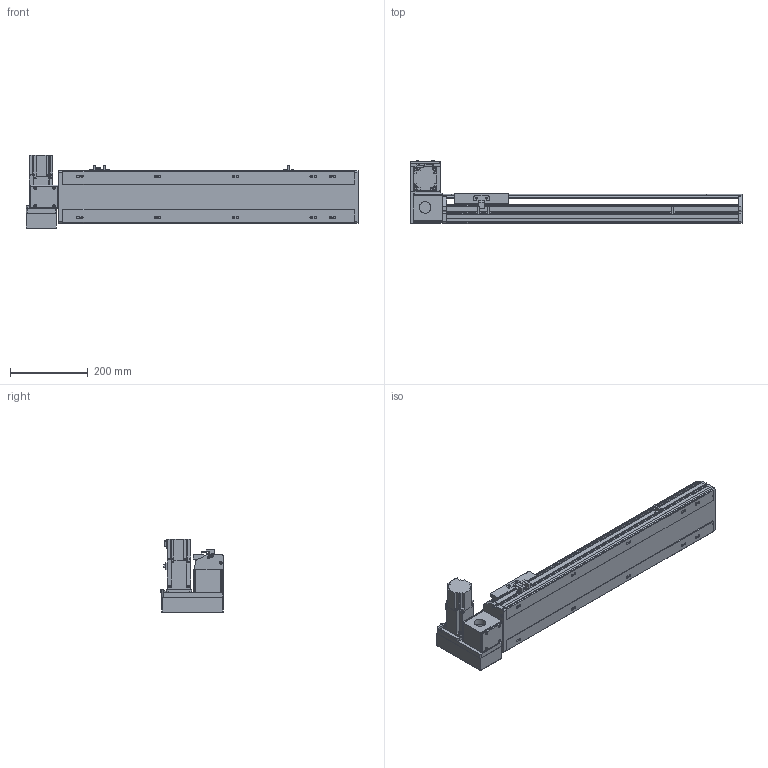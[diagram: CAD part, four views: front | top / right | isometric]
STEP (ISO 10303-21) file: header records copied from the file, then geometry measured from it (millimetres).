
FILE_DESCRIPTION( ( 'STEP AP214' ), '1' );
FILE_NAME( 'x:/temp/worker_1/temp/exporttempdir_5824_24_IoYXB/format_0/PBS140-P40-S500-LU-T40-C1-N(0).stp', '2022-06-07T05:16:08', ( 'License CC BY-ND 4.0' ), ( 'CADENAS' ), ' ', 'PARTsolutions', ' ' );
FILE_SCHEMA( ( 'AUTOMOTIVE_DESIGN { 1 0 10303 214 1 1 1 1 }' ) );
Length unit declared in the file: millimetre
Products named in the file (7): PBS140-P40-S500-LU-T40-C1-N(0); _PBS140-S500()_body; _PBS140T-LU_motors; _T40-p1; _PBS140_sliser; _PBS140_plant; _PBS140_sensor
Assembly tree (8 placements, depth 2):
  PBS140-P40-S500-LU-T40-C1-N(0)
    _PBS140-S500()_body
    _PBS140T-LU_motors
    _T40-p1
    _PBS140_sliser
    _PBS140_plant
    _PBS140_sensor  x3
Bounding box: 854 x 162.5 x 189.7 mm (x, y, z)
Volume: 4415510.4 mm3; surface area: 793548.3 mm2
Topology: 8 solids, 8 shells, 1027 faces, 2716 edges, 1775 vertices
Faces by surface type: plane 674, cylinder 307, cone 36, sphere 8, torus 2
Full cylindrical faces by diameter (mm): 3.242 x4, 4 x2, 4.134 x4, 4.4 x8, 4.5 x2, 4.8 x4, 4.917 x18, 5.5 x7, 6 x2, 7 x12, 7.5 x8, 8 x12, 8.5 x4, 10.5 x10, 14 x1, 30 x2, 50 x2
Entity records: 37363 total; most frequent: CARTESIAN_POINT 5747, DIRECTION 4987, ORIENTED_EDGE 4732, EDGE_CURVE 2366, AXIS2_PLACEMENT_3D 1717, VERTEX_POINT 1629, LINE 1553, VECTOR 1553
